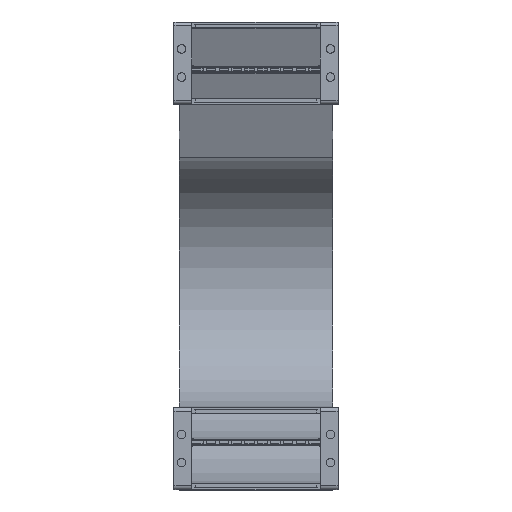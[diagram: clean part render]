
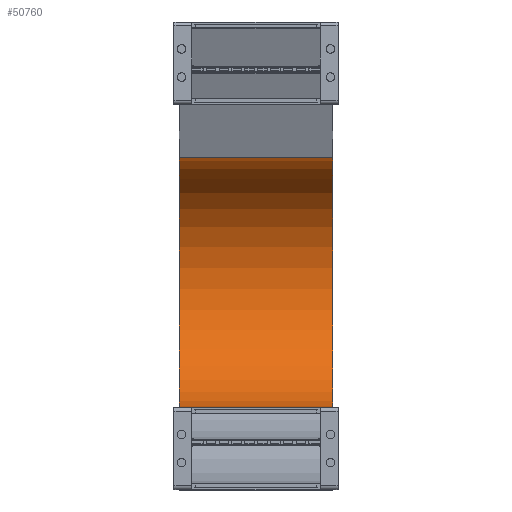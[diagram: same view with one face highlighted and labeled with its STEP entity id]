
A CAD part, top view. The second image highlights one B-rep face of the part: STEP entity #50760.
In plain terms, the highlighted cylindrical face has radius 98 mm (diameter 196 mm), a partial arc.
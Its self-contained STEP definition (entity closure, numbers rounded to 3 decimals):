
#49912=DIRECTION('',(-1.,0.,0.));
#49913=VECTOR('',#49912,120.);
#49914=CARTESIAN_POINT('',(60.,64.,-500.));
#49915=LINE('',#49914,#49913);
#49926=DIRECTION('',(-1.,0.,0.));
#49927=VECTOR('',#49926,120.);
#49928=CARTESIAN_POINT('',(60.,259.505,-509.842));
#49929=LINE('',#49928,#49927);
#49933=CARTESIAN_POINT('',(60.,162.,-500.));
#49934=DIRECTION('',(-1.,0.,0.));
#49935=DIRECTION('',(0.,0.995,-0.1));
#49936=AXIS2_PLACEMENT_3D('',#49933,#49934,#49935);
#50012=CARTESIAN_POINT('',(-60.,162.,-500.));
#50013=DIRECTION('',(-1.,0.,0.));
#50014=DIRECTION('',(0.,0.995,-0.1));
#50015=AXIS2_PLACEMENT_3D('',#50012,#50013,#50014);
#50134=CARTESIAN_POINT('',(60.,259.505,-509.842));
#50135=CARTESIAN_POINT('',(-60.,259.505,-509.842));
#50136=VERTEX_POINT('',#50134);
#50137=VERTEX_POINT('',#50135);
#50158=CARTESIAN_POINT('',(60.,64.,-500.));
#50159=CARTESIAN_POINT('',(-60.,64.,-500.));
#50160=VERTEX_POINT('',#50158);
#50161=VERTEX_POINT('',#50159);
#50746=CARTESIAN_POINT('',(1.,162.,-500.));
#50747=DIRECTION('',(-1.,0.,0.));
#50748=DIRECTION('',(0.,-0.995,0.1));
#50749=AXIS2_PLACEMENT_3D('',#50746,#50747,#50748);
#50750=CYLINDRICAL_SURFACE('',#50749,98.);
#50752=ORIENTED_EDGE('',*,*,#50751,.F.);
#50754=ORIENTED_EDGE('',*,*,#50753,.T.);
#50755=ORIENTED_EDGE('',*,*,#50729,.T.);
#50757=ORIENTED_EDGE('',*,*,#50756,.F.);
#50758=EDGE_LOOP('',(#50752,#50754,#50755,#50757));
#50759=FACE_OUTER_BOUND('',#50758,.F.);
#49937=CIRCLE('',#49936,98.);
#50016=CIRCLE('',#50015,98.);
#50729=EDGE_CURVE('',#50160,#50161,#49915,.T.);
#50751=EDGE_CURVE('',#50136,#50137,#49929,.T.);
#50753=EDGE_CURVE('',#50136,#50160,#49937,.T.);
#50756=EDGE_CURVE('',#50137,#50161,#50016,.T.);
#50760=ADVANCED_FACE('',(#50759),#50750,.F.);
